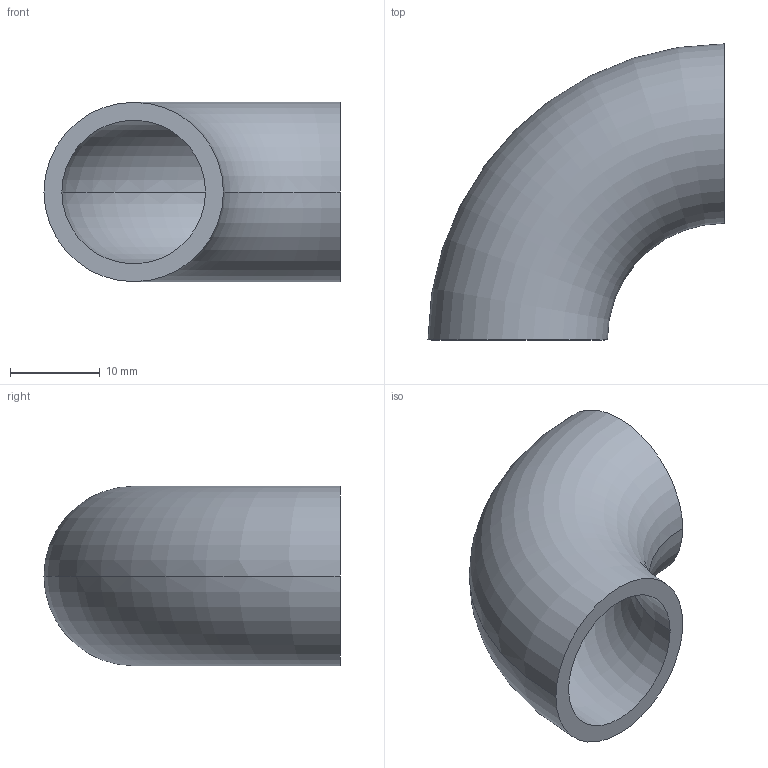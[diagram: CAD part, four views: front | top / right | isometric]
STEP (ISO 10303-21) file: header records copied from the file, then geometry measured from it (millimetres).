
FILE_DESCRIPTION (( 'STEP AP203' ), '1' );
FILE_NAME ('OT212-15-20x2_OSTP.step', '2020-12-16T02:10:12', ( '' ), ( '' ), 'SwSTEP 2.0', 'SolidWorks 2014', '' );
FILE_SCHEMA (( 'CONFIG_CONTROL_DESIGN' ));
Length unit declared in the file: millimetre
Products named in the file (1): OT212-15-20x2_OSTP
Bounding box: 33 x 33 x 20 mm (x, y, z)
Volume: 4086 mm3; surface area: 4312.2 mm2
Topology: 1 solids, 1 shells, 6 faces, 12 edges, 8 vertices
Faces by surface type: torus 4, plane 2
Entity records: 249 total; most frequent: DIRECTION 38, CARTESIAN_POINT 27, ORIENTED_EDGE 24, AXIS2_PLACEMENT_3D 19, EDGE_CURVE 12, CIRCLE 12, EDGE_LOOP 8, PERSON_AND_ORGANIZATION 8
